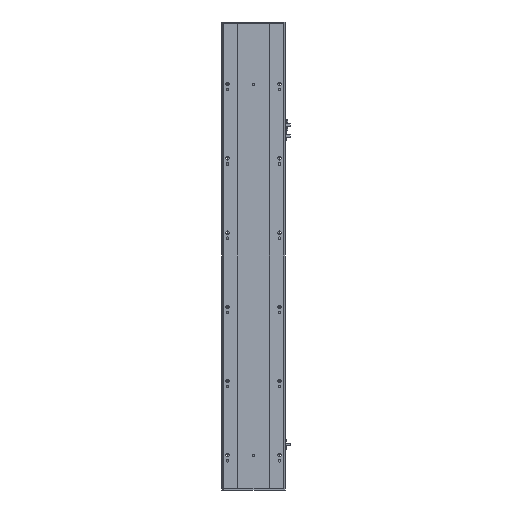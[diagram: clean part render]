
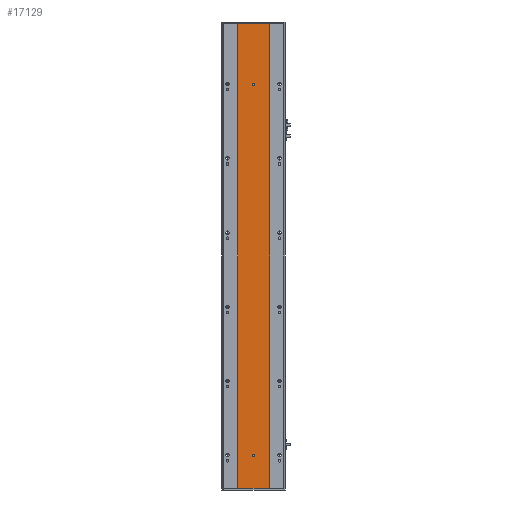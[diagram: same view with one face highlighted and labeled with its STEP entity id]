
A CAD part, front view. The second image highlights one B-rep face of the part: STEP entity #17129.
In plain terms, the highlighted planar face has unit normal (0, -1, 0).
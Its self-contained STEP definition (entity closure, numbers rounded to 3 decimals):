
#479 = CARTESIAN_POINT ( 'NONE',  ( 85., 2.57, 88.5 ) ) ;
#923 = CARTESIAN_POINT ( 'NONE',  ( 85., 2.57, 1091.5 ) ) ;
#1214 = LINE ( 'NONE', #6273, #10474 ) ;
#1448 = VERTEX_POINT ( 'NONE', #16233 ) ;
#2446 = DIRECTION ( 'NONE',  ( 0., 0., 1. ) ) ;
#2486 = ORIENTED_EDGE ( 'NONE', *, *, #5110, .T. ) ;
#3218 = CARTESIAN_POINT ( 'NONE',  ( 126.916, 2.57, 0. ) ) ;
#3692 = DIRECTION ( 'NONE',  ( -1., 0., 0. ) ) ;
#4064 = DIRECTION ( 'NONE',  ( 0., 1., 0. ) ) ;
#4432 = CARTESIAN_POINT ( 'NONE',  ( 126.916, 2.57, 1251. ) ) ;
#4555 = EDGE_CURVE ( 'NONE', #20304, #9883, #1214, .T. ) ;
#4606 = VERTEX_POINT ( 'NONE', #923 ) ;
#5110 = EDGE_CURVE ( 'NONE', #24084, #1448, #17780, .T. ) ;
#5667 = CARTESIAN_POINT ( 'NONE',  ( 42.916, 2.57, 0. ) ) ;
#6273 = CARTESIAN_POINT ( 'NONE',  ( 42.916, 2.57, 0. ) ) ;
#6654 = VERTEX_POINT ( 'NONE', #4432 ) ;
#6815 = LINE ( 'NONE', #17293, #12032 ) ;
#7313 = FACE_OUTER_BOUND ( 'NONE', #9661, .T. ) ;
#7507 = DIRECTION ( 'NONE',  ( 0., 1., 0. ) ) ;
#8304 = AXIS2_PLACEMENT_3D ( 'NONE', #15866, #4064, #17843 ) ;
#8643 = AXIS2_PLACEMENT_3D ( 'NONE', #19544, #21444, #11697 ) ;
#8749 = VECTOR ( 'NONE', #3692, 1000. ) ;
#8852 = CARTESIAN_POINT ( 'NONE',  ( 42.916, 2.57, 1251. ) ) ;
#9323 = CARTESIAN_POINT ( 'NONE',  ( 85., 2.57, 1085.5 ) ) ;
#9475 = DIRECTION ( 'NONE',  ( 0., 1., 0. ) ) ;
#9533 = CARTESIAN_POINT ( 'NONE',  ( 42.916, 2.57, 0. ) ) ;
#9539 = LINE ( 'NONE', #8852, #19391 ) ;
#9661 = EDGE_LOOP ( 'NONE', ( #12699, #24564, #13307, #13717 ) ) ;
#9737 = PLANE ( 'NONE',  #8643 ) ;
#9883 = VERTEX_POINT ( 'NONE', #13947 ) ;
#9891 = CARTESIAN_POINT ( 'NONE',  ( 85., 2.57, 85.5 ) ) ;
#10474 = VECTOR ( 'NONE', #14103, 1000. ) ;
#10601 = AXIS2_PLACEMENT_3D ( 'NONE', #479, #14246, #2446 ) ;
#10749 = EDGE_CURVE ( 'NONE', #6654, #9883, #9539, .T. ) ;
#10853 = VERTEX_POINT ( 'NONE', #3218 ) ;
#11697 = DIRECTION ( 'NONE',  ( 0., 0., 1. ) ) ;
#12032 = VECTOR ( 'NONE', #19264, 1000. ) ;
#12549 = CIRCLE ( 'NONE', #8304, 3. ) ;
#12699 = ORIENTED_EDGE ( 'NONE', *, *, #10749, .T. ) ;
#13307 = ORIENTED_EDGE ( 'NONE', *, *, #13430, .F. ) ;
#13430 = EDGE_CURVE ( 'NONE', #10853, #20304, #24413, .T. ) ;
#13717 = ORIENTED_EDGE ( 'NONE', *, *, #19389, .T. ) ;
#13947 = CARTESIAN_POINT ( 'NONE',  ( 42.916, 2.57, 1251. ) ) ;
#14094 = CIRCLE ( 'NONE', #24669, 3. ) ;
#14103 = DIRECTION ( 'NONE',  ( 0., 0., 1. ) ) ;
#14246 = DIRECTION ( 'NONE',  ( 0., 1., 0. ) ) ;
#14608 = AXIS2_PLACEMENT_3D ( 'NONE', #19316, #7507, #21280 ) ;
#14826 = EDGE_LOOP ( 'NONE', ( #2486, #25103 ) ) ;
#15866 = CARTESIAN_POINT ( 'NONE',  ( 85., 2.57, 88.5 ) ) ;
#16233 = CARTESIAN_POINT ( 'NONE',  ( 85., 2.57, 91.5 ) ) ;
#16632 = EDGE_CURVE ( 'NONE', #1448, #24084, #12549, .T. ) ;
#17129 = ADVANCED_FACE ( 'NONE', ( #17794, #17177, #7313 ), #9737, .F. ) ;
#17177 = FACE_BOUND ( 'NONE', #23018, .T. ) ;
#17293 = CARTESIAN_POINT ( 'NONE',  ( 126.916, 2.57, 0. ) ) ;
#17780 = CIRCLE ( 'NONE', #10601, 3. ) ;
#17794 = FACE_BOUND ( 'NONE', #14826, .T. ) ;
#17843 = DIRECTION ( 'NONE',  ( 0., 0., 1. ) ) ;
#18751 = VERTEX_POINT ( 'NONE', #9323 ) ;
#19264 = DIRECTION ( 'NONE',  ( 0., 0., 1. ) ) ;
#19316 = CARTESIAN_POINT ( 'NONE',  ( 85., 2.57, 1088.5 ) ) ;
#19389 = EDGE_CURVE ( 'NONE', #10853, #6654, #6815, .T. ) ;
#19391 = VECTOR ( 'NONE', #20634, 1000. ) ;
#19544 = CARTESIAN_POINT ( 'NONE',  ( 42.916, 2.57, 0. ) ) ;
#19897 = ORIENTED_EDGE ( 'NONE', *, *, #24885, .T. ) ;
#20304 = VERTEX_POINT ( 'NONE', #9533 ) ;
#20532 = ORIENTED_EDGE ( 'NONE', *, *, #23362, .T. ) ;
#20634 = DIRECTION ( 'NONE',  ( -1., 0., 0. ) ) ;
#21251 = CARTESIAN_POINT ( 'NONE',  ( 85., 2.57, 1088.5 ) ) ;
#21280 = DIRECTION ( 'NONE',  ( 0., 0., 1. ) ) ;
#21394 = CIRCLE ( 'NONE', #14608, 3. ) ;
#21444 = DIRECTION ( 'NONE',  ( 0., 1., 0. ) ) ;
#23018 = EDGE_LOOP ( 'NONE', ( #20532, #19897 ) ) ;
#23202 = DIRECTION ( 'NONE',  ( 0., 0., 1. ) ) ;
#23362 = EDGE_CURVE ( 'NONE', #18751, #4606, #21394, .T. ) ;
#24084 = VERTEX_POINT ( 'NONE', #9891 ) ;
#24413 = LINE ( 'NONE', #5667, #8749 ) ;
#24564 = ORIENTED_EDGE ( 'NONE', *, *, #4555, .F. ) ;
#24669 = AXIS2_PLACEMENT_3D ( 'NONE', #21251, #9475, #23202 ) ;
#24885 = EDGE_CURVE ( 'NONE', #4606, #18751, #14094, .T. ) ;
#25103 = ORIENTED_EDGE ( 'NONE', *, *, #16632, .T. ) ;
